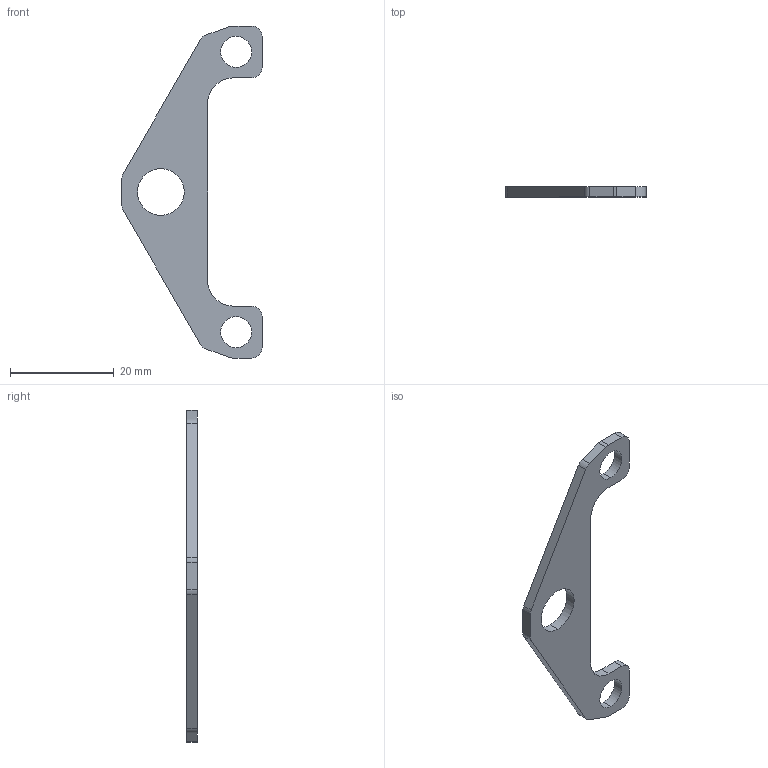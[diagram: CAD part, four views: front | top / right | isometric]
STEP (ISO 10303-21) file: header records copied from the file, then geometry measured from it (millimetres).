
FILE_DESCRIPTION (( 'STEP AP214' ), '1' );
FILE_NAME ('NTS216-B-BRACKET.STEP', '2025-01-08T06:10:02', ( '' ), ( '' ), 'SwSTEP 2.0', 'SolidWorks 2022', '' );
FILE_SCHEMA (( 'AUTOMOTIVE_DESIGN' ));
Length unit declared in the file: millimetre
Products named in the file (1): NTS216-B-BRACKET
Bounding box: 27 x 2 x 64 mm (x, y, z)
Volume: 1327.5 mm3; surface area: 1797.7 mm2
Topology: 1 solids, 1 shells, 32 faces, 90 edges, 60 vertices
Faces by surface type: cylinder 18, plane 14
Entity records: 1096 total; most frequent: DIRECTION 192, CARTESIAN_POINT 183, ORIENTED_EDGE 180, EDGE_CURVE 90, AXIS2_PLACEMENT_3D 69, VERTEX_POINT 60, LINE 54, VECTOR 54
